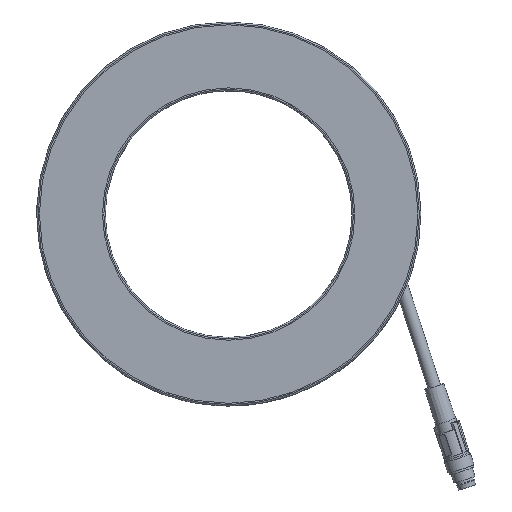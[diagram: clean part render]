
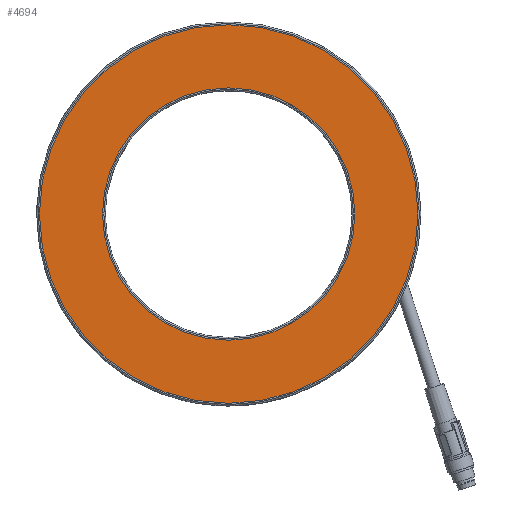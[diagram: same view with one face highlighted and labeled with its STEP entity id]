
A CAD part, top view. The second image highlights one B-rep face of the part: STEP entity #4694.
In plain terms, the highlighted planar face has unit normal (0, 0, 1).
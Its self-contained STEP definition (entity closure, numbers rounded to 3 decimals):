
#1402=ORIENTED_EDGE('',*,*,#1842,.T.);
#1403=ORIENTED_EDGE('',*,*,#1843,.F.);
#1842=EDGE_CURVE('',#2159,#2159,#2366,.T.);
#1843=EDGE_CURVE('',#2160,#2160,#2367,.T.);
#2159=VERTEX_POINT('',#7848);
#2160=VERTEX_POINT('',#7850);
#2366=CIRCLE('',#5122,46.);
#2367=CIRCLE('',#5123,69.);
#2661=EDGE_LOOP('',(#1402));
#2662=EDGE_LOOP('',(#1403));
#2960=FACE_BOUND('',#2661,.T.);
#2961=FACE_BOUND('',#2662,.T.);
#3054=PLANE('',#5121);
#4694=ADVANCED_FACE('',(#2960,#2961),#3054,.F.);
#5121=AXIS2_PLACEMENT_3D('',#7846,#6137,#6138);
#5122=AXIS2_PLACEMENT_3D('',#7847,#6139,#6140);
#5123=AXIS2_PLACEMENT_3D('',#7849,#6141,#6142);
#6137=DIRECTION('',(0.,0.,-1.));
#6138=DIRECTION('',(-1.,0.,0.));
#6139=DIRECTION('',(0.,0.,-1.));
#6140=DIRECTION('',(1.,0.,0.));
#6141=DIRECTION('',(0.,0.,-1.));
#6142=DIRECTION('',(1.,0.,0.));
#7846=CARTESIAN_POINT('',(0.,0.,12.608));
#7847=CARTESIAN_POINT('',(0.,0.,12.608));
#7848=CARTESIAN_POINT('',(46.,0.,12.608));
#7849=CARTESIAN_POINT('',(0.,0.,12.608));
#7850=CARTESIAN_POINT('',(69.,0.,12.608));
